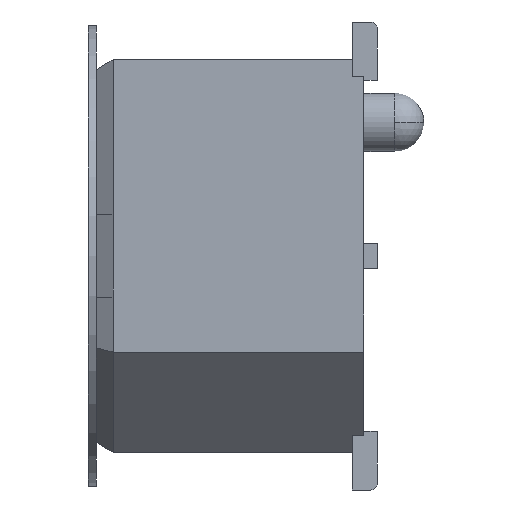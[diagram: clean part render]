
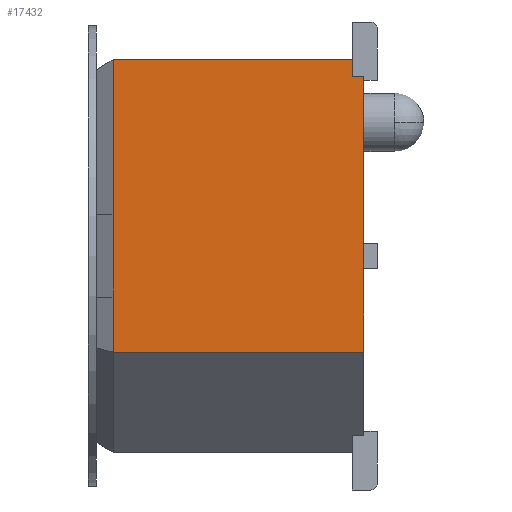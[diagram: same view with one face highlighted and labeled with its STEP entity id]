
A CAD part, left-side view. The second image highlights one B-rep face of the part: STEP entity #17432.
In plain terms, the highlighted planar face has unit normal (-1, 0, 0).
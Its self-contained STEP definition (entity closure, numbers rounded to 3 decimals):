
#1124 = VECTOR ( 'NONE', #38249, 1000. ) ;
#1846 = DIRECTION ( 'NONE',  ( 0., 1., 0. ) ) ;
#1851 = DIRECTION ( 'NONE',  ( 0., 0., -1. ) ) ;
#2320 = VECTOR ( 'NONE', #21940, 1000. ) ;
#3497 = DIRECTION ( 'NONE',  ( 0., 0., 1. ) ) ;
#3601 = LINE ( 'NONE', #39793, #47882 ) ;
#3843 = LINE ( 'NONE', #58343, #2320 ) ;
#4622 = ORIENTED_EDGE ( 'NONE', *, *, #11356, .T. ) ;
#6375 = ORIENTED_EDGE ( 'NONE', *, *, #57581, .T. ) ;
#10378 = DIRECTION ( 'NONE',  ( 0., 1., 0. ) ) ;
#11356 = EDGE_CURVE ( 'NONE', #22190, #25658, #21904, .T. ) ;
#14496 = VECTOR ( 'NONE', #10378, 1000. ) ;
#15132 = ORIENTED_EDGE ( 'NONE', *, *, #19966, .T. ) ;
#17432 = ADVANCED_FACE ( 'NONE', ( #42445 ), #29424, .F. ) ;
#19626 = DIRECTION ( 'NONE',  ( 1., 0., 0. ) ) ;
#19966 = EDGE_CURVE ( 'NONE', #25658, #28333, #3843, .T. ) ;
#20737 = LINE ( 'NONE', #55424, #1124 ) ;
#21904 = LINE ( 'NONE', #50017, #29160 ) ;
#21940 = DIRECTION ( 'NONE',  ( 0., 1., 0. ) ) ;
#22190 = VERTEX_POINT ( 'NONE', #29714 ) ;
#23259 = ORIENTED_EDGE ( 'NONE', *, *, #50585, .F. ) ;
#23406 = EDGE_CURVE ( 'NONE', #45455, #57898, #3601, .T. ) ;
#24090 = CARTESIAN_POINT ( 'NONE',  ( -30.01, 3.81, -1.46 ) ) ;
#25456 = EDGE_LOOP ( 'NONE', ( #4622, #15132, #58209, #42778, #23259, #6375 ) ) ;
#25658 = VERTEX_POINT ( 'NONE', #48801 ) ;
#28333 = VERTEX_POINT ( 'NONE', #35025 ) ;
#29160 = VECTOR ( 'NONE', #3497, 1000. ) ;
#29389 = VECTOR ( 'NONE', #1851, 1000. ) ;
#29424 = PLANE ( 'NONE',  #53975 ) ;
#29714 = CARTESIAN_POINT ( 'NONE',  ( -30.01, 0.178, 2.73 ) ) ;
#33150 = CARTESIAN_POINT ( 'NONE',  ( -30.01, 3.81, -1.46 ) ) ;
#33850 = LINE ( 'NONE', #51341, #29389 ) ;
#34312 = VERTEX_POINT ( 'NONE', #34843 ) ;
#34843 = CARTESIAN_POINT ( 'NONE',  ( -30.01, 0., 2.73 ) ) ;
#35025 = CARTESIAN_POINT ( 'NONE',  ( -30.01, 3.81, 2.985 ) ) ;
#38249 = DIRECTION ( 'NONE',  ( 0., 0., -1. ) ) ;
#39793 = CARTESIAN_POINT ( 'NONE',  ( -30.01, 0., -1.46 ) ) ;
#41634 = CARTESIAN_POINT ( 'NONE',  ( -30.01, 0., -1.46 ) ) ;
#42445 = FACE_OUTER_BOUND ( 'NONE', #25456, .T. ) ;
#42778 = ORIENTED_EDGE ( 'NONE', *, *, #23406, .F. ) ;
#45455 = VERTEX_POINT ( 'NONE', #41634 ) ;
#47421 = CARTESIAN_POINT ( 'NONE',  ( -30.01, 0., 2.73 ) ) ;
#47882 = VECTOR ( 'NONE', #48069, 1000. ) ;
#48069 = DIRECTION ( 'NONE',  ( 0., 1., 0. ) ) ;
#48801 = CARTESIAN_POINT ( 'NONE',  ( -30.01, 0.178, 2.985 ) ) ;
#50017 = CARTESIAN_POINT ( 'NONE',  ( -30.01, 0.178, 2.73 ) ) ;
#50585 = EDGE_CURVE ( 'NONE', #34312, #45455, #33850, .T. ) ;
#51341 = CARTESIAN_POINT ( 'NONE',  ( -30.01, 0., 2.73 ) ) ;
#52003 = EDGE_CURVE ( 'NONE', #28333, #57898, #20737, .T. ) ;
#53975 = AXIS2_PLACEMENT_3D ( 'NONE', #24090, #19626, #1846 ) ;
#55424 = CARTESIAN_POINT ( 'NONE',  ( -30.01, 3.81, 2.985 ) ) ;
#56284 = LINE ( 'NONE', #47421, #14496 ) ;
#57581 = EDGE_CURVE ( 'NONE', #34312, #22190, #56284, .T. ) ;
#57898 = VERTEX_POINT ( 'NONE', #33150 ) ;
#58209 = ORIENTED_EDGE ( 'NONE', *, *, #52003, .T. ) ;
#58343 = CARTESIAN_POINT ( 'NONE',  ( -30.01, 0.178, 2.985 ) ) ;
